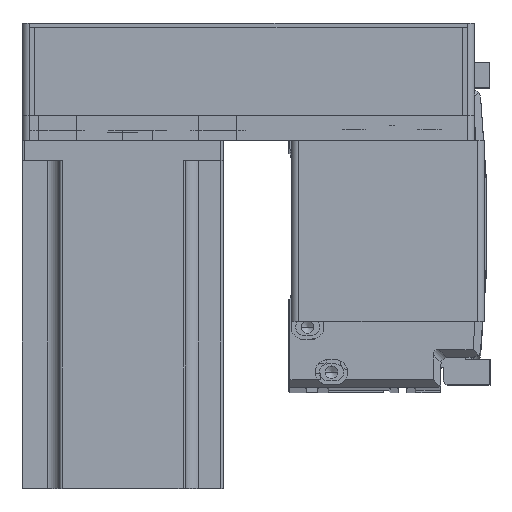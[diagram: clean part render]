
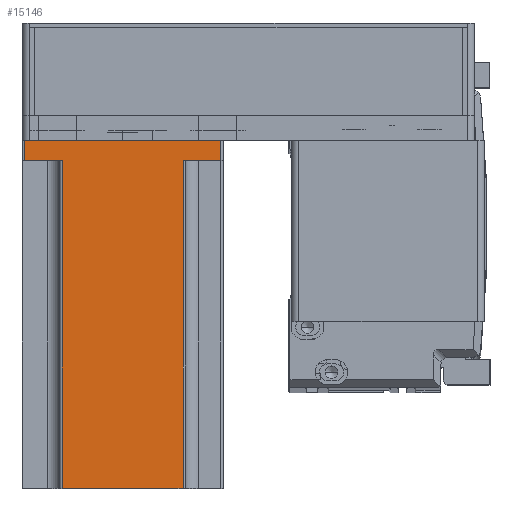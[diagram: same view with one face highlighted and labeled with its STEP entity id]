
A CAD part, top view. The second image highlights one B-rep face of the part: STEP entity #15146.
In plain terms, the highlighted planar face has unit normal (0, 0, 1) as drawn and (0, 1, 0) by its records, which use the part's own axes.
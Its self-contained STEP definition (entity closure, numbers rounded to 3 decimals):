
#21 = CARTESIAN_POINT ( 'NONE',  ( 25., 40., 8. ) ) ;
#742 = CARTESIAN_POINT ( 'NONE',  ( 39., 40., 138.3 ) ) ;
#807 = CARTESIAN_POINT ( 'NONE',  ( -39., 40., 0. ) ) ;
#1674 = ORIENTED_EDGE ( 'NONE', *, *, #19641, .F. ) ;
#3393 = DIRECTION ( 'NONE',  ( 1., 0., 0. ) ) ;
#3701 = CARTESIAN_POINT ( 'NONE',  ( 24., 40., 8. ) ) ;
#5126 = ORIENTED_EDGE ( 'NONE', *, *, #11320, .T. ) ;
#5146 = ORIENTED_EDGE ( 'NONE', *, *, #22498, .T. ) ;
#5157 = DIRECTION ( 'NONE',  ( -1., 0., 0. ) ) ;
#5180 = CARTESIAN_POINT ( 'NONE',  ( -39., 40., 138.3 ) ) ;
#5535 = CARTESIAN_POINT ( 'NONE',  ( 40., 40., 138.3 ) ) ;
#6873 = VECTOR ( 'NONE', #17695, 1000. ) ;
#8060 = LINE ( 'NONE', #5535, #39414 ) ;
#9834 = VERTEX_POINT ( 'NONE', #42988 ) ;
#9954 = DIRECTION ( 'NONE',  ( 0., 0., 1. ) ) ;
#10664 = VERTEX_POINT ( 'NONE', #14786 ) ;
#10677 = LINE ( 'NONE', #46739, #31112 ) ;
#11063 = EDGE_LOOP ( 'NONE', ( #5146, #5126, #1674, #29938, #22995, #28067, #35450, #15124 ) ) ;
#11320 = EDGE_CURVE ( 'NONE', #10664, #9834, #37247, .T. ) ;
#12159 = VERTEX_POINT ( 'NONE', #52740 ) ;
#13190 = CARTESIAN_POINT ( 'NONE',  ( 40., 40., 0. ) ) ;
#14786 = CARTESIAN_POINT ( 'NONE',  ( -24., 40., 8. ) ) ;
#14860 = VERTEX_POINT ( 'NONE', #23557 ) ;
#15049 = DIRECTION ( 'NONE',  ( 0., -1., 0. ) ) ;
#15124 = ORIENTED_EDGE ( 'NONE', *, *, #47466, .T. ) ;
#15146 = ADVANCED_FACE ( 'NONE', ( #26450 ), #27042, .F. ) ;
#16771 = VERTEX_POINT ( 'NONE', #3701 ) ;
#17695 = DIRECTION ( 'NONE',  ( 0., 0., 1. ) ) ;
#17729 = LINE ( 'NONE', #5180, #6873 ) ;
#19641 = EDGE_CURVE ( 'NONE', #12159, #9834, #8060, .T. ) ;
#20188 = LINE ( 'NONE', #21, #40642 ) ;
#21044 = EDGE_CURVE ( 'NONE', #22487, #48346, #32119, .T. ) ;
#22487 = VERTEX_POINT ( 'NONE', #52291 ) ;
#22498 = EDGE_CURVE ( 'NONE', #14860, #10664, #50501, .T. ) ;
#22995 = ORIENTED_EDGE ( 'NONE', *, *, #37296, .F. ) ;
#23557 = CARTESIAN_POINT ( 'NONE',  ( -39., 40., 8. ) ) ;
#23737 = CARTESIAN_POINT ( 'NONE',  ( -25., 40., 8. ) ) ;
#24716 = CARTESIAN_POINT ( 'NONE',  ( 39., 40., 0. ) ) ;
#26064 = DIRECTION ( 'NONE',  ( -1., 0., 0. ) ) ;
#26450 = FACE_OUTER_BOUND ( 'NONE', #11063, .T. ) ;
#27042 = PLANE ( 'NONE',  #37533 ) ;
#27299 = EDGE_CURVE ( 'NONE', #12159, #16771, #10677, .T. ) ;
#28067 = ORIENTED_EDGE ( 'NONE', *, *, #21044, .T. ) ;
#28834 = EDGE_CURVE ( 'NONE', #48346, #36733, #52958, .T. ) ;
#29938 = ORIENTED_EDGE ( 'NONE', *, *, #27299, .T. ) ;
#30826 = VECTOR ( 'NONE', #41471, 1000. ) ;
#31112 = VECTOR ( 'NONE', #50857, 1000. ) ;
#32119 = LINE ( 'NONE', #742, #30826 ) ;
#35450 = ORIENTED_EDGE ( 'NONE', *, *, #28834, .T. ) ;
#36733 = VERTEX_POINT ( 'NONE', #807 ) ;
#37247 = LINE ( 'NONE', #38559, #49357 ) ;
#37296 = EDGE_CURVE ( 'NONE', #22487, #16771, #20188, .T. ) ;
#37533 = AXIS2_PLACEMENT_3D ( 'NONE', #39548, #15049, #43658 ) ;
#38559 = CARTESIAN_POINT ( 'NONE',  ( -24., 40., 138.3 ) ) ;
#39414 = VECTOR ( 'NONE', #26064, 1000. ) ;
#39548 = CARTESIAN_POINT ( 'NONE',  ( 40., 40., 138.3 ) ) ;
#39696 = VECTOR ( 'NONE', #3393, 1000. ) ;
#40642 = VECTOR ( 'NONE', #48916, 1000. ) ;
#41471 = DIRECTION ( 'NONE',  ( 0., 0., -1. ) ) ;
#42092 = VECTOR ( 'NONE', #5157, 1000. ) ;
#42988 = CARTESIAN_POINT ( 'NONE',  ( -24., 40., 138.3 ) ) ;
#43658 = DIRECTION ( 'NONE',  ( 1., 0., 0. ) ) ;
#46739 = CARTESIAN_POINT ( 'NONE',  ( 24., 40., 138.3 ) ) ;
#47466 = EDGE_CURVE ( 'NONE', #36733, #14860, #17729, .T. ) ;
#48346 = VERTEX_POINT ( 'NONE', #24716 ) ;
#48916 = DIRECTION ( 'NONE',  ( -1., 0., 0. ) ) ;
#49357 = VECTOR ( 'NONE', #9954, 1000. ) ;
#50501 = LINE ( 'NONE', #23737, #39696 ) ;
#50857 = DIRECTION ( 'NONE',  ( 0., 0., -1. ) ) ;
#52291 = CARTESIAN_POINT ( 'NONE',  ( 39., 40., 8. ) ) ;
#52740 = CARTESIAN_POINT ( 'NONE',  ( 24., 40., 138.3 ) ) ;
#52958 = LINE ( 'NONE', #13190, #42092 ) ;
